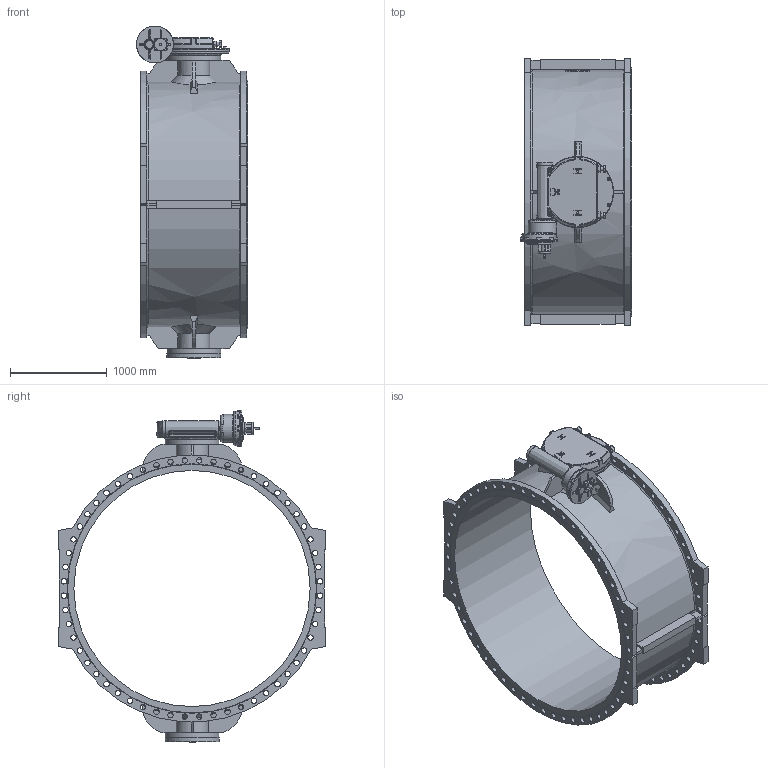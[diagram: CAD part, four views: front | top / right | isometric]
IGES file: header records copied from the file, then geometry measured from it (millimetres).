
Start section: SolidWorks IGES file using analytic representation for surfaces
Global section: file name: \\avksan2\techshare\PBM outline export from Enovia\O_756_102_DN2400_0XX02_REV01.igs; native system: SolidWorks 2019; preprocessor: SolidWorks 2019; author: pbm; date: 210930.104211; units: millimetre
Bounding box: 1147.9 x 2760 x 3429.5 mm (x, y, z)
Surface area: 27131603.7 mm2 (no closed solid volume)
Topology: 0 solids, 0 shells, 1147 faces, 5791 edges, 5571 vertices
Faces by surface type: revolution 602, bspline 545
